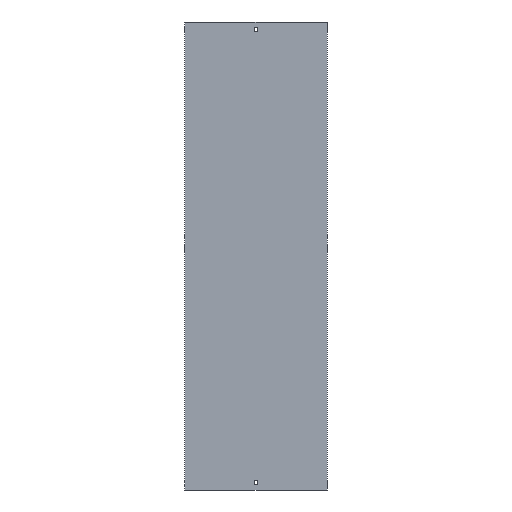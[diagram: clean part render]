
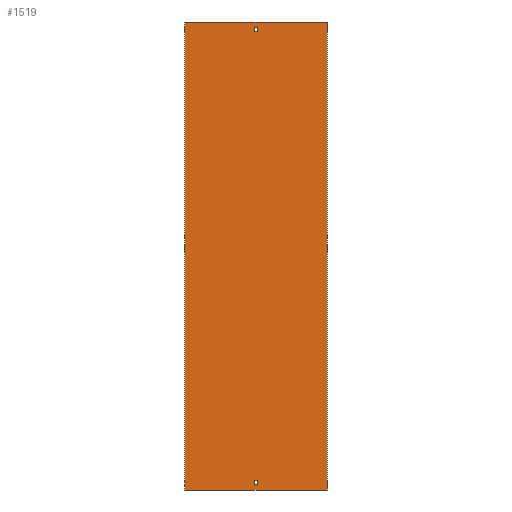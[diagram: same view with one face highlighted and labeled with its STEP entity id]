
A CAD part, front view. The second image highlights one B-rep face of the part: STEP entity #1519.
In plain terms, the highlighted planar face has unit normal (0, -1, 0).
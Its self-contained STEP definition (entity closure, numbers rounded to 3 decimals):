
#12 = EDGE_CURVE ( 'NONE', #97, #104, #182, .T. ) ;
#14 = ORIENTED_EDGE ( 'NONE', *, *, #1214, .T. ) ;
#27 = VECTOR ( 'NONE', #1182, 1000. ) ;
#35 = CARTESIAN_POINT ( 'NONE',  ( 3.25, 0., 488. ) ) ;
#45 = CARTESIAN_POINT ( 'NONE',  ( -152., 0., 500. ) ) ;
#52 = FACE_OUTER_BOUND ( 'NONE', #128, .T. ) ;
#84 = EDGE_CURVE ( 'NONE', #104, #1672, #535, .T. ) ;
#97 = VERTEX_POINT ( 'NONE', #588 ) ;
#104 = VERTEX_POINT ( 'NONE', #1204 ) ;
#109 = EDGE_CURVE ( 'NONE', #1221, #752, #827, .T. ) ;
#128 = EDGE_LOOP ( 'NONE', ( #1634, #1405, #290, #175 ) ) ;
#130 = VERTEX_POINT ( 'NONE', #811 ) ;
#151 = LINE ( 'NONE', #564, #27 ) ;
#175 = ORIENTED_EDGE ( 'NONE', *, *, #680, .T. ) ;
#182 = LINE ( 'NONE', #707, #628 ) ;
#186 = DIRECTION ( 'NONE',  ( 0., 0., -1. ) ) ;
#279 = EDGE_CURVE ( 'NONE', #779, #1555, #866, .T. ) ;
#290 = ORIENTED_EDGE ( 'NONE', *, *, #279, .F. ) ;
#313 = ORIENTED_EDGE ( 'NONE', *, *, #109, .T. ) ;
#332 = DIRECTION ( 'NONE',  ( 0., 0., -1. ) ) ;
#341 = CARTESIAN_POINT ( 'NONE',  ( -152., 0., 500. ) ) ;
#378 = DIRECTION ( 'NONE',  ( 0., 0., -1. ) ) ;
#406 = CARTESIAN_POINT ( 'NONE',  ( -3.25, 0., -479. ) ) ;
#422 = DIRECTION ( 'NONE',  ( -1., 0., 0. ) ) ;
#431 = CARTESIAN_POINT ( 'NONE',  ( -3.25, 0., 479. ) ) ;
#438 = VERTEX_POINT ( 'NONE', #1590 ) ;
#460 = DIRECTION ( 'NONE',  ( -1., 0., 0. ) ) ;
#464 = DIRECTION ( 'NONE',  ( 1., 0., 0. ) ) ;
#465 = CARTESIAN_POINT ( 'NONE',  ( -152., 0., -500. ) ) ;
#467 = CARTESIAN_POINT ( 'NONE',  ( 152., 0., -500. ) ) ;
#468 = DIRECTION ( 'NONE',  ( 1., 0., 0. ) ) ;
#477 = CARTESIAN_POINT ( 'NONE',  ( -3.25, 0., 479. ) ) ;
#535 = LINE ( 'NONE', #1448, #1222 ) ;
#564 = CARTESIAN_POINT ( 'NONE',  ( 152., 0., 500. ) ) ;
#579 = AXIS2_PLACEMENT_3D ( 'NONE', #45, #1095, #422 ) ;
#588 = CARTESIAN_POINT ( 'NONE',  ( 3.25, 0., 488. ) ) ;
#591 = EDGE_CURVE ( 'NONE', #438, #1638, #1509, .T. ) ;
#628 = VECTOR ( 'NONE', #724, 1000. ) ;
#630 = VECTOR ( 'NONE', #460, 1000. ) ;
#674 = VECTOR ( 'NONE', #378, 1000. ) ;
#676 = LINE ( 'NONE', #35, #941 ) ;
#680 = EDGE_CURVE ( 'NONE', #779, #438, #1535, .T. ) ;
#686 = DIRECTION ( 'NONE',  ( 1., 0., 0. ) ) ;
#703 = CARTESIAN_POINT ( 'NONE',  ( -3.25, 0., -488. ) ) ;
#707 = CARTESIAN_POINT ( 'NONE',  ( -3.25, 0., 488. ) ) ;
#724 = DIRECTION ( 'NONE',  ( -1., 0., 0. ) ) ;
#747 = EDGE_LOOP ( 'NONE', ( #1187, #14, #1479, #313 ) ) ;
#752 = VERTEX_POINT ( 'NONE', #703 ) ;
#773 = CARTESIAN_POINT ( 'NONE',  ( 3.25, 0., -479. ) ) ;
#779 = VERTEX_POINT ( 'NONE', #956 ) ;
#790 = LINE ( 'NONE', #431, #1424 ) ;
#811 = CARTESIAN_POINT ( 'NONE',  ( 3.25, 0., 479. ) ) ;
#827 = LINE ( 'NONE', #1624, #630 ) ;
#866 = LINE ( 'NONE', #341, #1024 ) ;
#879 = CARTESIAN_POINT ( 'NONE',  ( -152., 0., 500. ) ) ;
#913 = VERTEX_POINT ( 'NONE', #773 ) ;
#925 = DIRECTION ( 'NONE',  ( 0., 0., 1. ) ) ;
#927 = EDGE_CURVE ( 'NONE', #1555, #1638, #151, .T. ) ;
#941 = VECTOR ( 'NONE', #925, 1000. ) ;
#956 = CARTESIAN_POINT ( 'NONE',  ( -152., 0., 500. ) ) ;
#962 = EDGE_CURVE ( 'NONE', #130, #97, #676, .T. ) ;
#991 = LINE ( 'NONE', #1226, #1667 ) ;
#994 = CARTESIAN_POINT ( 'NONE',  ( -3.25, 0., -488. ) ) ;
#1019 = ORIENTED_EDGE ( 'NONE', *, *, #12, .F. ) ;
#1024 = VECTOR ( 'NONE', #468, 1000. ) ;
#1087 = FACE_BOUND ( 'NONE', #1548, .T. ) ;
#1095 = DIRECTION ( 'NONE',  ( 0., 1., 0. ) ) ;
#1102 = LINE ( 'NONE', #1628, #1449 ) ;
#1104 = LINE ( 'NONE', #994, #1402 ) ;
#1161 = EDGE_CURVE ( 'NONE', #913, #1221, #991, .T. ) ;
#1182 = DIRECTION ( 'NONE',  ( 0., 0., -1. ) ) ;
#1187 = ORIENTED_EDGE ( 'NONE', *, *, #1671, .T. ) ;
#1191 = FACE_BOUND ( 'NONE', #747, .T. ) ;
#1203 = PLANE ( 'NONE',  #579 ) ;
#1204 = CARTESIAN_POINT ( 'NONE',  ( -3.25, 0., 488. ) ) ;
#1214 = EDGE_CURVE ( 'NONE', #1322, #913, #1102, .T. ) ;
#1221 = VERTEX_POINT ( 'NONE', #1375 ) ;
#1222 = VECTOR ( 'NONE', #332, 1000. ) ;
#1226 = CARTESIAN_POINT ( 'NONE',  ( 3.25, 0., -488. ) ) ;
#1247 = DIRECTION ( 'NONE',  ( 1., 0., 0. ) ) ;
#1322 = VERTEX_POINT ( 'NONE', #406 ) ;
#1375 = CARTESIAN_POINT ( 'NONE',  ( 3.25, 0., -488. ) ) ;
#1384 = ORIENTED_EDGE ( 'NONE', *, *, #962, .F. ) ;
#1397 = ORIENTED_EDGE ( 'NONE', *, *, #84, .F. ) ;
#1402 = VECTOR ( 'NONE', #1641, 1000. ) ;
#1405 = ORIENTED_EDGE ( 'NONE', *, *, #927, .F. ) ;
#1424 = VECTOR ( 'NONE', #686, 1000. ) ;
#1447 = VECTOR ( 'NONE', #1247, 1000. ) ;
#1448 = CARTESIAN_POINT ( 'NONE',  ( -3.25, 0., 488. ) ) ;
#1449 = VECTOR ( 'NONE', #464, 1000. ) ;
#1459 = EDGE_CURVE ( 'NONE', #1672, #130, #790, .T. ) ;
#1479 = ORIENTED_EDGE ( 'NONE', *, *, #1161, .T. ) ;
#1509 = LINE ( 'NONE', #465, #1447 ) ;
#1519 = ADVANCED_FACE ( 'NONE', ( #52, #1087, #1191 ), #1203, .F. ) ;
#1535 = LINE ( 'NONE', #879, #674 ) ;
#1548 = EDGE_LOOP ( 'NONE', ( #1568, #1397, #1019, #1384 ) ) ;
#1555 = VERTEX_POINT ( 'NONE', #1659 ) ;
#1568 = ORIENTED_EDGE ( 'NONE', *, *, #1459, .F. ) ;
#1590 = CARTESIAN_POINT ( 'NONE',  ( -152., 0., -500. ) ) ;
#1624 = CARTESIAN_POINT ( 'NONE',  ( -3.25, 0., -488. ) ) ;
#1628 = CARTESIAN_POINT ( 'NONE',  ( -3.25, 0., -479. ) ) ;
#1634 = ORIENTED_EDGE ( 'NONE', *, *, #591, .T. ) ;
#1638 = VERTEX_POINT ( 'NONE', #467 ) ;
#1641 = DIRECTION ( 'NONE',  ( 0., 0., 1. ) ) ;
#1659 = CARTESIAN_POINT ( 'NONE',  ( 152., 0., 500. ) ) ;
#1667 = VECTOR ( 'NONE', #186, 1000. ) ;
#1671 = EDGE_CURVE ( 'NONE', #752, #1322, #1104, .T. ) ;
#1672 = VERTEX_POINT ( 'NONE', #477 ) ;
